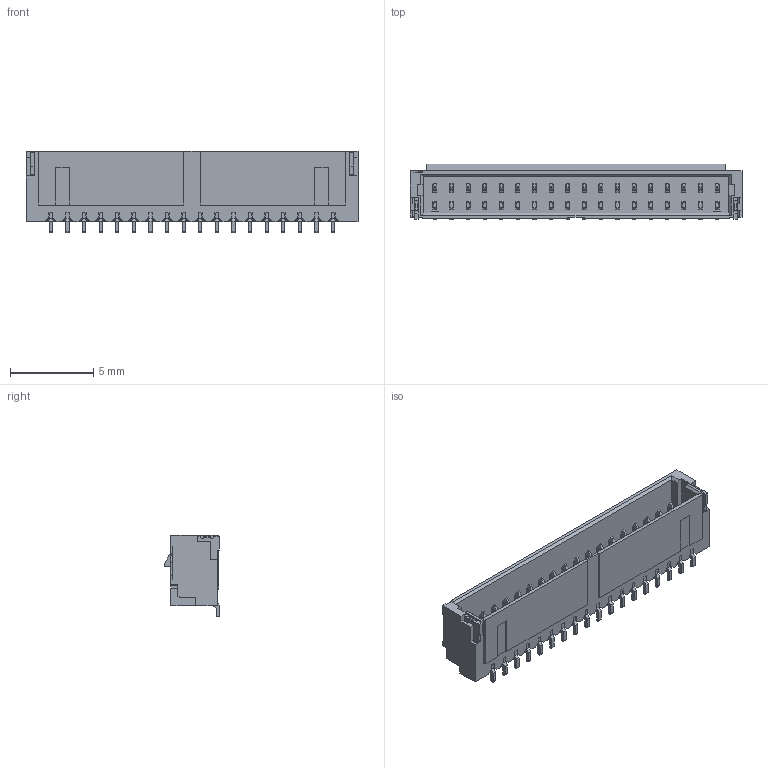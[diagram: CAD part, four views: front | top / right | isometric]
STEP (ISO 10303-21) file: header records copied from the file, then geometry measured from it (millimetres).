
FILE_DESCRIPTION((''),'2;1');
FILE_NAME('S-50224-018XX-XXX','2017-09-19T',('k55943'),(''),'PRO/ENGINEER BY PARAMETRIC TECHNOLOGY CORPORATION, 2009360','PRO/ENGINEER BY PARAMETRIC TECHNOLOGY CORPORATION, 2009360','');
FILE_SCHEMA(('CONFIG_CONTROL_DESIGN'));
Length unit declared in the file: millimetre
Products named in the file (1): S-50224-018XX-XXX
Bounding box: 20 x 3.35 x 4.93 mm (x, y, z)
Volume: 119.2 mm3; surface area: 631.6 mm2
Topology: 1 solids, 1 shells, 1382 faces, 4677 edges, 3120 vertices
Faces by surface type: plane 1278, cylinder 104
Entity records: 49787 total; most frequent: CARTESIAN_POINT 9129, ORIENTED_EDGE 8854, DIRECTION 7575, EDGE_CURVE 4427, VECTOR 4385, LINE 4385, VERTEX_POINT 2852, AXIS2_PLACEMENT_3D 1595
